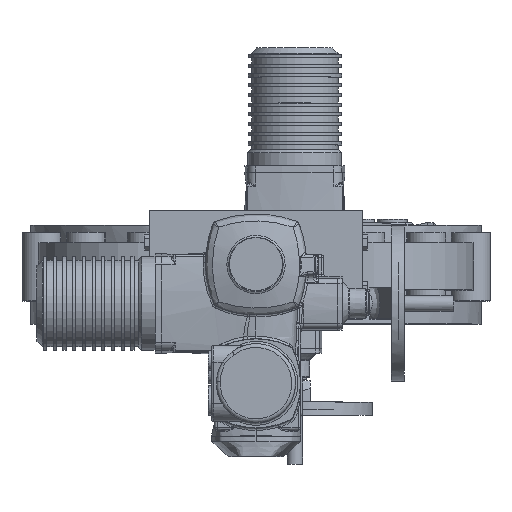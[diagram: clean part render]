
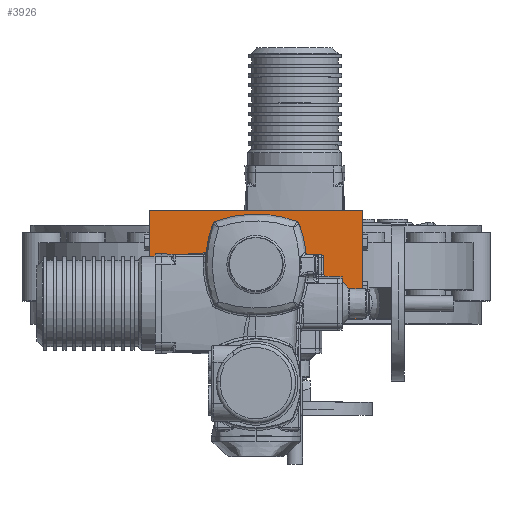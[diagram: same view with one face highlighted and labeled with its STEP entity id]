
A CAD part, top view. The second image highlights one B-rep face of the part: STEP entity #3926.
In plain terms, the highlighted planar face has unit normal (0, 0, 1).
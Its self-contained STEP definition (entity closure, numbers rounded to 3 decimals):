
#3926 = ADVANCED_FACE( '', ( #8186, #8187 ), #8188, .F. );
#8186 = FACE_BOUND( '', #25766, .T. );
#8187 = FACE_OUTER_BOUND( '', #25767, .T. );
#8188 = PLANE( '', #25768 );
#25766 = EDGE_LOOP( '', ( #40111 ) );
#25767 = EDGE_LOOP( '', ( #40112, #40113, #40114, #40115 ) );
#25768 = AXIS2_PLACEMENT_3D( '', #40116, #40117, #40118 );
#40111 = ORIENTED_EDGE( '', *, *, #44950, .T. );
#40112 = ORIENTED_EDGE( '', *, *, #44956, .T. );
#40113 = ORIENTED_EDGE( '', *, *, #43752, .T. );
#40114 = ORIENTED_EDGE( '', *, *, #45175, .T. );
#40115 = ORIENTED_EDGE( '', *, *, #43993, .T. );
#40116 = CARTESIAN_POINT( '', ( -124.25, -50., 1683. ) );
#40117 = DIRECTION( '', ( 0., 0., -1. ) );
#40118 = DIRECTION( '', ( -1., 0., 0. ) );
#43752 = EDGE_CURVE( '', #49904, #49905, #49906, .T. );
#43993 = EDGE_CURVE( '', #50221, #50222, #50223, .T. );
#44950 = EDGE_CURVE( '', #51426, #51426, #51427, .T. );
#44956 = EDGE_CURVE( '', #50222, #49904, #51433, .T. );
#45175 = EDGE_CURVE( '', #49905, #50221, #51685, .T. );
#49904 = VERTEX_POINT( '', #70740 );
#49905 = VERTEX_POINT( '', #70741 );
#49906 = LINE( '', #70742, #70743 );
#50221 = VERTEX_POINT( '', #72373 );
#50222 = VERTEX_POINT( '', #72374 );
#50223 = LINE( '', #72375, #72376 );
#51426 = VERTEX_POINT( '', #77166 );
#51427 = CIRCLE( '', #77167, 24. );
#51433 = LINE( '', #77179, #77180 );
#51685 = LINE( '', #78137, #78138 );
#70740 = CARTESIAN_POINT( '', ( -137.5, -70., 1683. ) );
#70741 = CARTESIAN_POINT( '', ( 137.5, -70., 1683. ) );
#70742 = CARTESIAN_POINT( '', ( -137.5, -70., 1683. ) );
#70743 = VECTOR( '', #81655, 1000. );
#72373 = CARTESIAN_POINT( '', ( 137.5, 70., 1683. ) );
#72374 = CARTESIAN_POINT( '', ( -137.5, 70., 1683. ) );
#72375 = CARTESIAN_POINT( '', ( 137.5, 70., 1683. ) );
#72376 = VECTOR( '', #81849, 1000. );
#77166 = CARTESIAN_POINT( '', ( -24., 0., 1683. ) );
#77167 = AXIS2_PLACEMENT_3D( '', #82641, #82642, #82643 );
#77179 = CARTESIAN_POINT( '', ( -137.5, 70., 1683. ) );
#77180 = VECTOR( '', #82644, 1000. );
#78137 = CARTESIAN_POINT( '', ( 137.5, -70., 1683. ) );
#78138 = VECTOR( '', #82786, 1000. );
#81655 = DIRECTION( '', ( 1., 0., 0. ) );
#81849 = DIRECTION( '', ( -1., 0., 0. ) );
#82641 = CARTESIAN_POINT( '', ( 0., 0., 1683. ) );
#82642 = DIRECTION( '', ( 0., 0., -1. ) );
#82643 = DIRECTION( '', ( -1., 0., 0. ) );
#82644 = DIRECTION( '', ( 0., -1., 0. ) );
#82786 = DIRECTION( '', ( 0., 1., 0. ) );
